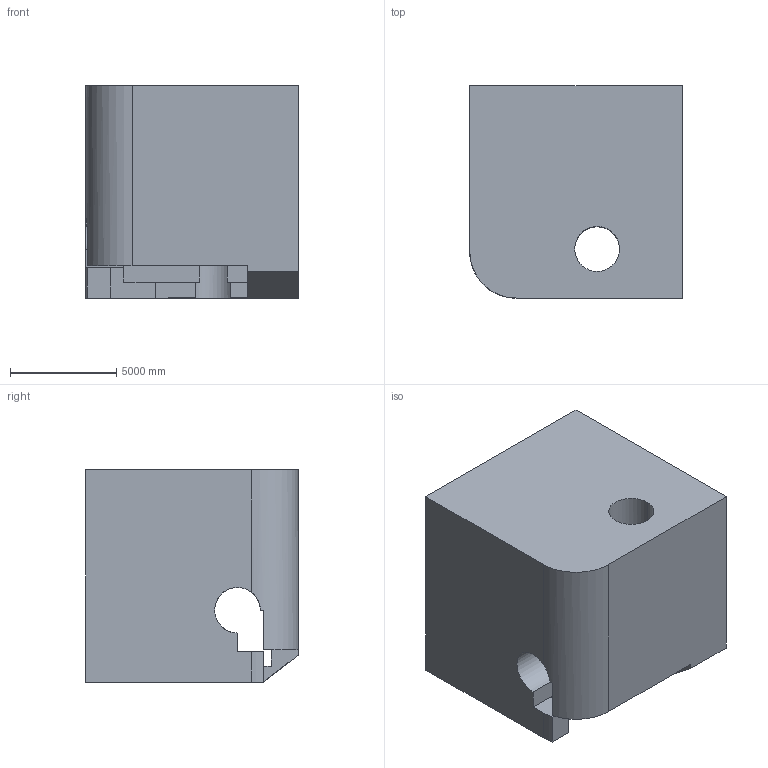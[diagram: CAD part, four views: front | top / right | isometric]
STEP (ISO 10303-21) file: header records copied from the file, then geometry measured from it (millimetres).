
FILE_DESCRIPTION (( 'STEP AP203' ), '1' );
FILE_NAME ('703.STEP', '2022-07-29T12:37:46', ( 'user' ), ( '' ), 'SwSTEP 2.0', 'SolidWorks 2021', '' );
FILE_SCHEMA (( 'CONFIG_CONTROL_DESIGN' ));
Length unit declared in the file: centimetre
Products named in the file (1): 703
Bounding box: 10000 x 10000 x 10000 mm (x, y, z)
Volume: 864444426568.8 mm3; surface area: 718271174.9 mm2
Topology: 1 solids, 1 shells, 49 faces, 147 edges, 98 vertices
Faces by surface type: plane 39, cylinder 10
Entity records: 2082 total; most frequent: CARTESIAN_POINT 665, ORIENTED_EDGE 294, DIRECTION 264, EDGE_CURVE 147, VECTOR 112, LINE 112, VERTEX_POINT 98, AXIS2_PLACEMENT_3D 76
